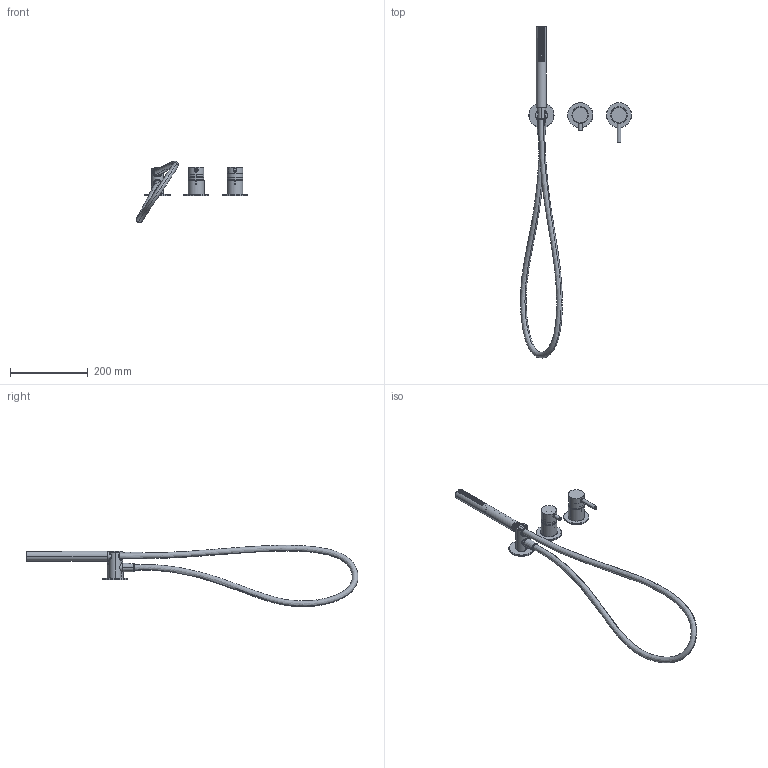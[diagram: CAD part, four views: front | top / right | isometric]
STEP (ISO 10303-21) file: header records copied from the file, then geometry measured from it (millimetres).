
FILE_DESCRIPTION((''),'2;1');
FILE_NAME('DIS_3D_M721B_R021A','2023-10-02T09:12:08',('matteo.follador'),(''),'CREO PARAMETRIC BY PTC INC, 2022424','CREO PARAMETRIC BY PTC INC, 2022424','');
FILE_SCHEMA(('AUTOMOTIVE_DESIGN { 1 0 10303 214 1 1 1 1 }'));
Length unit declared in the file: millimetre
Products named in the file (1): DIS_3D_M721B_R021A
Bounding box: 286.69 x 856.41 x 158.5 mm (x, y, z)
Volume: 514224.8 mm3; surface area: 203724.6 mm2
Topology: 5 solids, 8 shells, 2273 faces, 6188 edges, 3962 vertices
Faces by surface type: plane 878, cylinder 735, bspline 261, cone 247, torus 137, sphere 11, extrusion 4
Entity records: 128327 total; most frequent: CARTESIAN_POINT 58720, ORIENTED_EDGE 12328, DIRECTION 9298, EDGE_CURVE 6164, VERTEX_POINT 3962, AXIS2_PLACEMENT_3D 3253, VECTOR 2789, LINE 2785
